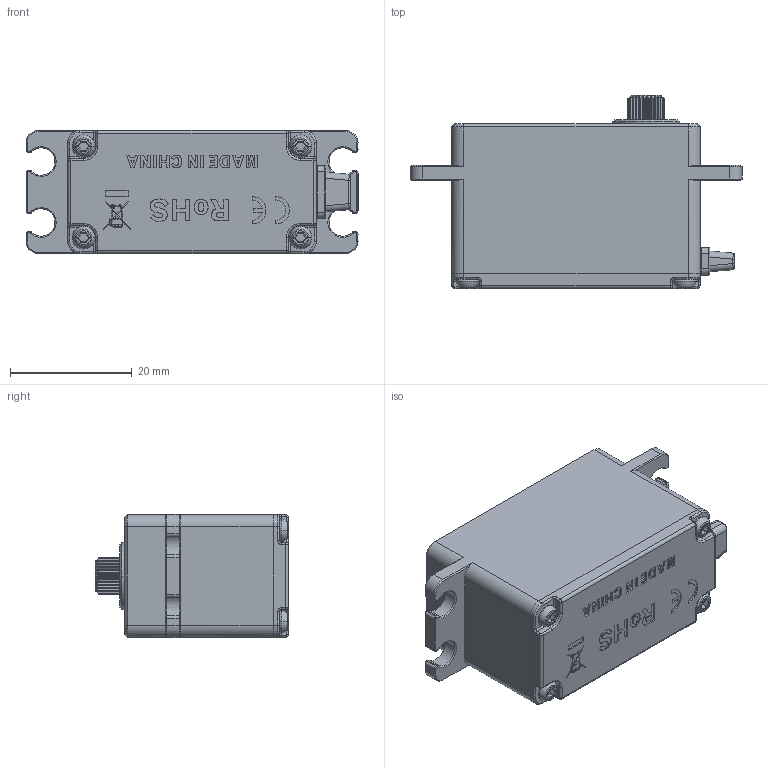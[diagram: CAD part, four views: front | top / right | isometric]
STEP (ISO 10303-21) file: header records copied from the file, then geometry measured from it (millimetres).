
FILE_DESCRIPTION((''),'2;1');
FILE_NAME('RS190BLP','2023-11-02T',('Administrator'),(''),'PRO/ENGINEER BY PARAMETRIC TECHNOLOGY CORPORATION, 2010280','PRO/ENGINEER BY PARAMETRIC TECHNOLOGY CORPORATION, 2010280','');
FILE_SCHEMA(('CONFIG_CONTROL_DESIGN','SHAPE_APPEARANCE_LAYERS_GROUPS'));
Length unit declared in the file: millimetre
Products named in the file (1): DDJ-STDLOWLV2-A50
Bounding box: 54.5 x 31.7 x 20.2 mm (x, y, z)
Volume: 22770.6 mm3; surface area: 5902.7 mm2
Topology: 1 solids, 1 shells, 946 faces, 2400 edges, 1471 vertices
Faces by surface type: plane 409, cylinder 278, extrusion 71, cone 64, torus 60, bspline 32, sphere 32
Entity records: 39307 total; most frequent: CARTESIAN_POINT 9785, ORIENTED_EDGE 4734, DIRECTION 4418, PRESENTATION_STYLE_ASSIGNMENT 2378, STYLED_ITEM 2368, CURVE_STYLE 2367, EDGE_CURVE 2367, AXIS2_PLACEMENT_3D 1473
